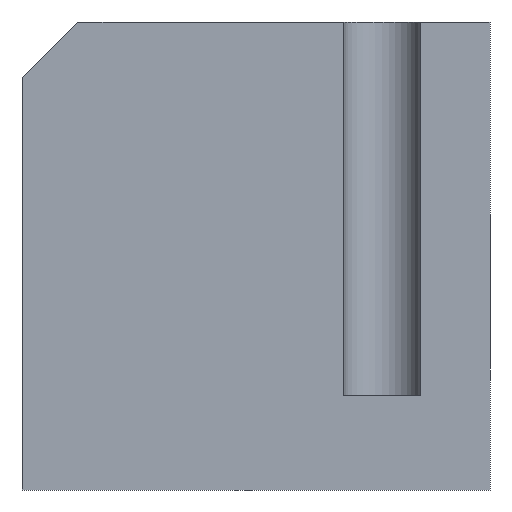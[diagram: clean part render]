
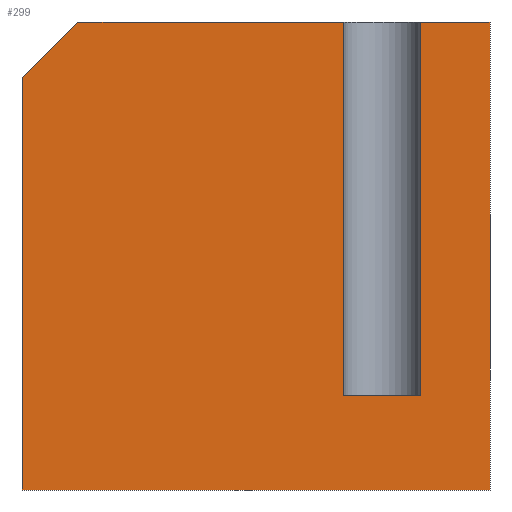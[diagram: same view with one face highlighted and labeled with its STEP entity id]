
A CAD part, front view. The second image highlights one B-rep face of the part: STEP entity #299.
In plain terms, the highlighted planar face has unit normal (0, -1, 0).
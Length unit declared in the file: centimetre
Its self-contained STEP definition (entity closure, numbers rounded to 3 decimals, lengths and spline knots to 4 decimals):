
#5 = VECTOR ( 'NONE', #588, 100. ) ;
#15 = ORIENTED_EDGE ( 'NONE', *, *, #254, .T. ) ;
#17 = CARTESIAN_POINT ( 'NONE',  ( 0., 0., 0. ) ) ;
#34 = VERTEX_POINT ( 'NONE', #412 ) ;
#55 = VERTEX_POINT ( 'NONE', #535 ) ;
#91 = CARTESIAN_POINT ( 'NONE',  ( 686.4244, 0., 1000. ) ) ;
#100 = DIRECTION ( 'NONE',  ( 1., 0., 0. ) ) ;
#101 = EDGE_CURVE ( 'NONE', #174, #224, #107, .T. ) ;
#107 = LINE ( 'NONE', #614, #275 ) ;
#123 = DIRECTION ( 'NONE',  ( 0., 0., -1. ) ) ;
#124 = DIRECTION ( 'NONE',  ( 1., 0., 0. ) ) ;
#125 = DIRECTION ( 'NONE',  ( 1., 0., 0. ) ) ;
#134 = CARTESIAN_POINT ( 'NONE',  ( 0., 0., 1000. ) ) ;
#135 = CARTESIAN_POINT ( 'NONE',  ( 686.4244, 0., 200.9116 ) ) ;
#143 = VECTOR ( 'NONE', #242, 100. ) ;
#152 = CARTESIAN_POINT ( 'NONE',  ( 0., 0., 880.3962 ) ) ;
#157 = VERTEX_POINT ( 'NONE', #152 ) ;
#159 = CARTESIAN_POINT ( 'NONE',  ( 1000., 0., 1000. ) ) ;
#161 = CARTESIAN_POINT ( 'NONE',  ( 119.6038, 0., 1000. ) ) ;
#166 = VERTEX_POINT ( 'NONE', #654 ) ;
#174 = VERTEX_POINT ( 'NONE', #728 ) ;
#224 = VERTEX_POINT ( 'NONE', #91 ) ;
#231 = CARTESIAN_POINT ( 'NONE',  ( 0., 0., 0. ) ) ;
#232 = VECTOR ( 'NONE', #123, 100. ) ;
#234 = CARTESIAN_POINT ( 'NONE',  ( 0., 0., 1000. ) ) ;
#237 = LINE ( 'NONE', #461, #556 ) ;
#240 = VECTOR ( 'NONE', #320, 100. ) ;
#242 = DIRECTION ( 'NONE',  ( 0., 0., 1. ) ) ;
#254 = EDGE_CURVE ( 'NONE', #174, #157, #681, .T. ) ;
#275 = VECTOR ( 'NONE', #100, 100. ) ;
#293 = DIRECTION ( 'NONE',  ( 0., 1., 0. ) ) ;
#299 = ADVANCED_FACE ( 'NONE', ( #504 ), #512, .F. ) ;
#305 = VERTEX_POINT ( 'NONE', #231 ) ;
#307 = LINE ( 'NONE', #134, #232 ) ;
#317 = LINE ( 'NONE', #369, #368 ) ;
#319 = EDGE_LOOP ( 'NONE', ( #429, #589, #702, #15, #552, #538, #547, #513, #523 ) ) ;
#320 = DIRECTION ( 'NONE',  ( -0.707, 0., -0.707 ) ) ;
#329 = DIRECTION ( 'NONE',  ( 0., 0., 1. ) ) ;
#363 = CARTESIAN_POINT ( 'NONE',  ( 0., 0., 200.9116 ) ) ;
#368 = VECTOR ( 'NONE', #329, 100. ) ;
#369 = CARTESIAN_POINT ( 'NONE',  ( 851.4804, 0., 200.9116 ) ) ;
#395 = EDGE_CURVE ( 'NONE', #157, #305, #307, .T. ) ;
#408 = LINE ( 'NONE', #643, #506 ) ;
#412 = CARTESIAN_POINT ( 'NONE',  ( 686.4244, 0., 200.9116 ) ) ;
#417 = LINE ( 'NONE', #135, #143 ) ;
#429 = ORIENTED_EDGE ( 'NONE', *, *, #747, .T. ) ;
#460 = VECTOR ( 'NONE', #124, 100. ) ;
#461 = CARTESIAN_POINT ( 'NONE',  ( 0., 0., 1000. ) ) ;
#467 = CARTESIAN_POINT ( 'NONE',  ( 851.4804, 0., 1000. ) ) ;
#504 = FACE_OUTER_BOUND ( 'NONE', #319, .T. ) ;
#505 = EDGE_CURVE ( 'NONE', #55, #711, #317, .T. ) ;
#506 = VECTOR ( 'NONE', #649, 100. ) ;
#512 = PLANE ( 'NONE',  #621 ) ;
#513 = ORIENTED_EDGE ( 'NONE', *, *, #627, .F. ) ;
#523 = ORIENTED_EDGE ( 'NONE', *, *, #505, .F. ) ;
#535 = CARTESIAN_POINT ( 'NONE',  ( 851.4804, 0., 200.9116 ) ) ;
#538 = ORIENTED_EDGE ( 'NONE', *, *, #714, .T. ) ;
#547 = ORIENTED_EDGE ( 'NONE', *, *, #707, .F. ) ;
#552 = ORIENTED_EDGE ( 'NONE', *, *, #395, .T. ) ;
#556 = VECTOR ( 'NONE', #125, 100. ) ;
#579 = VERTEX_POINT ( 'NONE', #159 ) ;
#583 = LINE ( 'NONE', #363, #5 ) ;
#588 = DIRECTION ( 'NONE',  ( -1., 0., 0. ) ) ;
#589 = ORIENTED_EDGE ( 'NONE', *, *, #719, .T. ) ;
#614 = CARTESIAN_POINT ( 'NONE',  ( 0., 0., 1000. ) ) ;
#621 = AXIS2_PLACEMENT_3D ( 'NONE', #234, #293, #624 ) ;
#624 = DIRECTION ( 'NONE',  ( 0., 0., 1. ) ) ;
#627 = EDGE_CURVE ( 'NONE', #711, #579, #237, .T. ) ;
#643 = CARTESIAN_POINT ( 'NONE',  ( 1000., 0., 1000. ) ) ;
#649 = DIRECTION ( 'NONE',  ( 0., 0., -1. ) ) ;
#654 = CARTESIAN_POINT ( 'NONE',  ( 1000., 0., 0. ) ) ;
#681 = LINE ( 'NONE', #161, #240 ) ;
#702 = ORIENTED_EDGE ( 'NONE', *, *, #101, .F. ) ;
#707 = EDGE_CURVE ( 'NONE', #579, #166, #408, .T. ) ;
#710 = LINE ( 'NONE', #17, #460 ) ;
#711 = VERTEX_POINT ( 'NONE', #467 ) ;
#714 = EDGE_CURVE ( 'NONE', #305, #166, #710, .T. ) ;
#719 = EDGE_CURVE ( 'NONE', #34, #224, #417, .T. ) ;
#728 = CARTESIAN_POINT ( 'NONE',  ( 119.6038, 0., 1000. ) ) ;
#747 = EDGE_CURVE ( 'NONE', #55, #34, #583, .T. ) ;
